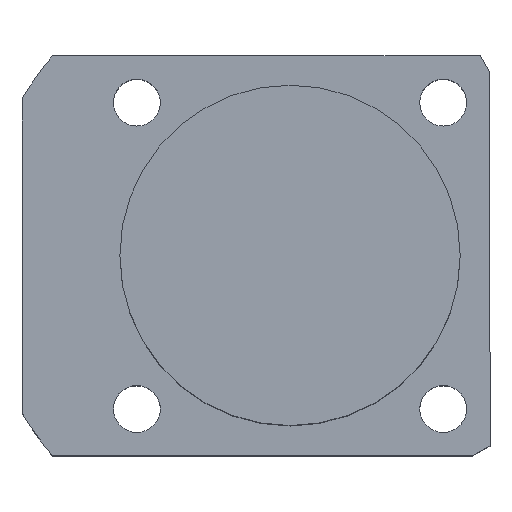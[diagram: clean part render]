
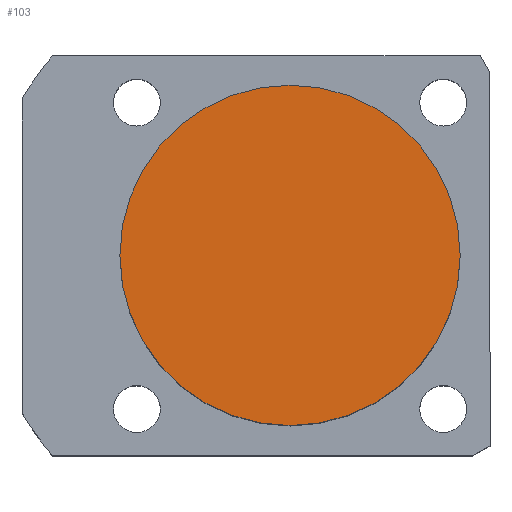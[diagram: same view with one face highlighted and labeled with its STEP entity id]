
A CAD part, top view. The second image highlights one B-rep face of the part: STEP entity #103.
In plain terms, the highlighted planar face has unit normal (0, 0, 1).
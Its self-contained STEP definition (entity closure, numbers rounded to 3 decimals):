
#38 = FACE_OUTER_BOUND ( 'NONE', #626, .T. ) ;
#44 = DIRECTION ( 'NONE',  ( 0., 0., 1. ) ) ;
#103 = ADVANCED_FACE ( 'NONE', ( #38 ), #1338, .T. ) ;
#133 = AXIS2_PLACEMENT_3D ( 'NONE', #210, #1679, #1855 ) ;
#173 = EDGE_CURVE ( 'NONE', #879, #198, #1237, .T. ) ;
#198 = VERTEX_POINT ( 'NONE', #700 ) ;
#210 = CARTESIAN_POINT ( 'NONE',  ( 0., 0., 41.5 ) ) ;
#328 = EDGE_CURVE ( 'NONE', #198, #879, #1959, .T. ) ;
#351 = DIRECTION ( 'NONE',  ( 1., 0., 0. ) ) ;
#626 = EDGE_LOOP ( 'NONE', ( #1682, #1958 ) ) ;
#680 = CARTESIAN_POINT ( 'NONE',  ( 0., 0., 41.5 ) ) ;
#700 = CARTESIAN_POINT ( 'NONE',  ( 20., 0., 41.5 ) ) ;
#710 = CARTESIAN_POINT ( 'NONE',  ( 0., 0., 41.5 ) ) ;
#879 = VERTEX_POINT ( 'NONE', #1762 ) ;
#1237 = CIRCLE ( 'NONE', #133, 20. ) ;
#1338 = PLANE ( 'NONE',  #1427 ) ;
#1427 = AXIS2_PLACEMENT_3D ( 'NONE', #680, #44, #351 ) ;
#1679 = DIRECTION ( 'NONE',  ( 0., 0., 1. ) ) ;
#1682 = ORIENTED_EDGE ( 'NONE', *, *, #173, .T. ) ;
#1762 = CARTESIAN_POINT ( 'NONE',  ( -20., 0., 41.5 ) ) ;
#1855 = DIRECTION ( 'NONE',  ( 1., 0., 0. ) ) ;
#1893 = DIRECTION ( 'NONE',  ( 0., 0., 1. ) ) ;
#1909 = AXIS2_PLACEMENT_3D ( 'NONE', #710, #1893, #1915 ) ;
#1915 = DIRECTION ( 'NONE',  ( 1., 0., 0. ) ) ;
#1958 = ORIENTED_EDGE ( 'NONE', *, *, #328, .T. ) ;
#1959 = CIRCLE ( 'NONE', #1909, 20. ) ;
